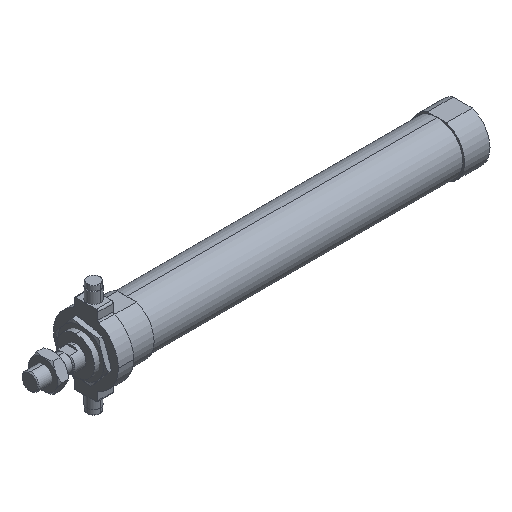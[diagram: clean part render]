
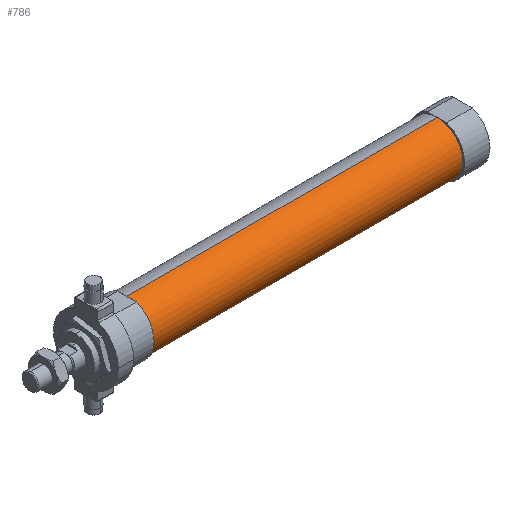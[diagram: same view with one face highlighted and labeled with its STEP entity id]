
A CAD part, isometric view. The second image highlights one B-rep face of the part: STEP entity #786.
In plain terms, the highlighted cylindrical face has radius 15 mm (diameter 30 mm), a partial arc.
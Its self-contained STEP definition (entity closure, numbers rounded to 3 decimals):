
#31 = LINE ( 'NONE', #789, #451 ) ;
#51 = AXIS2_PLACEMENT_3D ( 'NONE', #1160, #1522, #1819 ) ;
#366 = EDGE_CURVE ( 'NONE', #3943, #683, #31, .T. ) ;
#451 = VECTOR ( 'NONE', #4183, 1000. ) ;
#683 = VERTEX_POINT ( 'NONE', #2732 ) ;
#786 = ADVANCED_FACE ( 'NONE', ( #3148 ), #1558, .T. ) ;
#789 = CARTESIAN_POINT ( 'NONE',  ( -6.469, 0., -15. ) ) ;
#1061 = CARTESIAN_POINT ( 'NONE',  ( -6.469, 0., 15. ) ) ;
#1122 = LINE ( 'NONE', #1061, #3633 ) ;
#1151 = VERTEX_POINT ( 'NONE', #4169 ) ;
#1160 = CARTESIAN_POINT ( 'NONE',  ( 239., 0., 0. ) ) ;
#1349 = AXIS2_PLACEMENT_3D ( 'NONE', #3759, #3073, #3057 ) ;
#1412 = CARTESIAN_POINT ( 'NONE',  ( -6.469, 0., 0. ) ) ;
#1522 = DIRECTION ( 'NONE',  ( -1., 0., 0. ) ) ;
#1558 = CYLINDRICAL_SURFACE ( 'NONE', #2898, 15. ) ;
#1593 = VERTEX_POINT ( 'NONE', #1944 ) ;
#1747 = DIRECTION ( 'NONE',  ( -1., 0., 0. ) ) ;
#1781 = ORIENTED_EDGE ( 'NONE', *, *, #3201, .F. ) ;
#1819 = DIRECTION ( 'NONE',  ( 0., 0., 1. ) ) ;
#1914 = EDGE_CURVE ( 'NONE', #1593, #1151, #1122, .T. ) ;
#1944 = CARTESIAN_POINT ( 'NONE',  ( 239., 0., 15. ) ) ;
#2065 = DIRECTION ( 'NONE',  ( -1., 0., 0. ) ) ;
#2125 = CIRCLE ( 'NONE', #1349, 15. ) ;
#2230 = ORIENTED_EDGE ( 'NONE', *, *, #366, .F. ) ;
#2720 = DIRECTION ( 'NONE',  ( 0., 0., 1. ) ) ;
#2732 = CARTESIAN_POINT ( 'NONE',  ( 57., 0., -15. ) ) ;
#2898 = AXIS2_PLACEMENT_3D ( 'NONE', #1412, #1747, #2720 ) ;
#2979 = ORIENTED_EDGE ( 'NONE', *, *, #1914, .T. ) ;
#3013 = ORIENTED_EDGE ( 'NONE', *, *, #3381, .T. ) ;
#3057 = DIRECTION ( 'NONE',  ( 0., 0., 1. ) ) ;
#3073 = DIRECTION ( 'NONE',  ( -1., 0., 0. ) ) ;
#3099 = CARTESIAN_POINT ( 'NONE',  ( 239., 0., -15. ) ) ;
#3148 = FACE_OUTER_BOUND ( 'NONE', #3551, .T. ) ;
#3201 = EDGE_CURVE ( 'NONE', #683, #1151, #2125, .T. ) ;
#3381 = EDGE_CURVE ( 'NONE', #3943, #1593, #4154, .T. ) ;
#3551 = EDGE_LOOP ( 'NONE', ( #2230, #3013, #2979, #1781 ) ) ;
#3633 = VECTOR ( 'NONE', #2065, 1000. ) ;
#3759 = CARTESIAN_POINT ( 'NONE',  ( 57., 0., 0. ) ) ;
#3943 = VERTEX_POINT ( 'NONE', #3099 ) ;
#4154 = CIRCLE ( 'NONE', #51, 15. ) ;
#4169 = CARTESIAN_POINT ( 'NONE',  ( 57., 0., 15. ) ) ;
#4183 = DIRECTION ( 'NONE',  ( -1., 0., 0. ) ) ;
